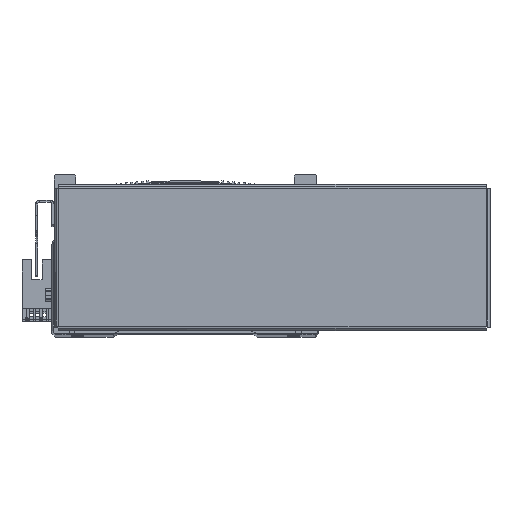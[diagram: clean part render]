
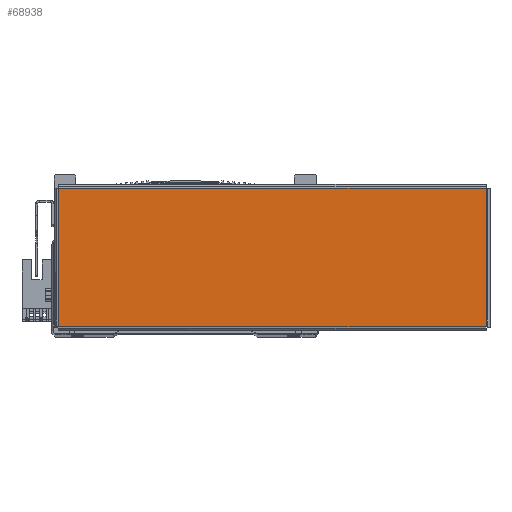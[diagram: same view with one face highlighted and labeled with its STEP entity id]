
A CAD part, top view. The second image highlights one B-rep face of the part: STEP entity #68938.
In plain terms, the highlighted planar face has unit normal (0, 0, 1) as drawn and (0, 0, -1) by its records, which use the part's own axes.
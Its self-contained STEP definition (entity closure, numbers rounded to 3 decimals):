
#11922 = EDGE_LOOP ( 'NONE', ( #67019, #67016, #67013, #67014 ) ) ;
#14682 = FACE_OUTER_BOUND ( 'NONE', #11922, .T. ) ;
#18123 = DIRECTION ( 'NONE',  ( 0., 0., 1. ) ) ;
#18133 = PLANE ( 'NONE',  #46878 ) ;
#18136 = CARTESIAN_POINT ( 'NONE',  ( 0., 0., -1. ) ) ;
#18137 = DIRECTION ( 'NONE',  ( 1., 0., 0. ) ) ;
#28215 = CARTESIAN_POINT ( 'NONE',  ( 97.863, -31.763, -1. ) ) ;
#28266 = CARTESIAN_POINT ( 'NONE',  ( -97.863, -31.763, -1. ) ) ;
#28366 = CARTESIAN_POINT ( 'NONE',  ( 97.863, 31.763, -1. ) ) ;
#28369 = CARTESIAN_POINT ( 'NONE',  ( -97.863, 31.763, -1. ) ) ;
#46878 = AXIS2_PLACEMENT_3D ( 'NONE', #18136, #18123, #18137 ) ;
#60164 = CARTESIAN_POINT ( 'NONE',  ( 97.863, 31.793, -1. ) ) ;
#60172 = DIRECTION ( 'NONE',  ( 0., -1., 0. ) ) ;
#60249 = CARTESIAN_POINT ( 'NONE',  ( 97.893, -31.763, -1. ) ) ;
#60258 = DIRECTION ( 'NONE',  ( -1., 0., 0. ) ) ;
#60373 = DIRECTION ( 'NONE',  ( 0., 1., 0. ) ) ;
#60405 = CARTESIAN_POINT ( 'NONE',  ( -97.863, -31.793, -1. ) ) ;
#60415 = CARTESIAN_POINT ( 'NONE',  ( -97.893, 31.763, -1. ) ) ;
#60444 = DIRECTION ( 'NONE',  ( 1., 0., 0. ) ) ;
#61296 = LINE ( 'NONE', #60164, #61334 ) ;
#61334 = VECTOR ( 'NONE', #60172, 1000. ) ;
#61370 = LINE ( 'NONE', #60249, #61409 ) ;
#61409 = VECTOR ( 'NONE', #60258, 1000. ) ;
#61431 = VECTOR ( 'NONE', #60444, 1000. ) ;
#61448 = LINE ( 'NONE', #60415, #61431 ) ;
#61464 = VECTOR ( 'NONE', #60373, 1000. ) ;
#61467 = LINE ( 'NONE', #60405, #61464 ) ;
#64555 = EDGE_CURVE ( 'NONE', #66726, #66691, #61296, .T. ) ;
#64587 = EDGE_CURVE ( 'NONE', #66691, #66669, #61370, .T. ) ;
#64626 = EDGE_CURVE ( 'NONE', #66669, #66736, #61467, .T. ) ;
#64638 = EDGE_CURVE ( 'NONE', #66736, #66726, #61448, .T. ) ;
#66669 = VERTEX_POINT ( 'NONE', #28266 ) ;
#66691 = VERTEX_POINT ( 'NONE', #28215 ) ;
#66726 = VERTEX_POINT ( 'NONE', #28366 ) ;
#66736 = VERTEX_POINT ( 'NONE', #28369 ) ;
#67013 = ORIENTED_EDGE ( 'NONE', *, *, #64626, .T. ) ;
#67014 = ORIENTED_EDGE ( 'NONE', *, *, #64638, .T. ) ;
#67016 = ORIENTED_EDGE ( 'NONE', *, *, #64587, .T. ) ;
#67019 = ORIENTED_EDGE ( 'NONE', *, *, #64555, .T. ) ;
#68938 = ADVANCED_FACE ( 'NONE', ( #14682 ), #18133, .F. ) ;
